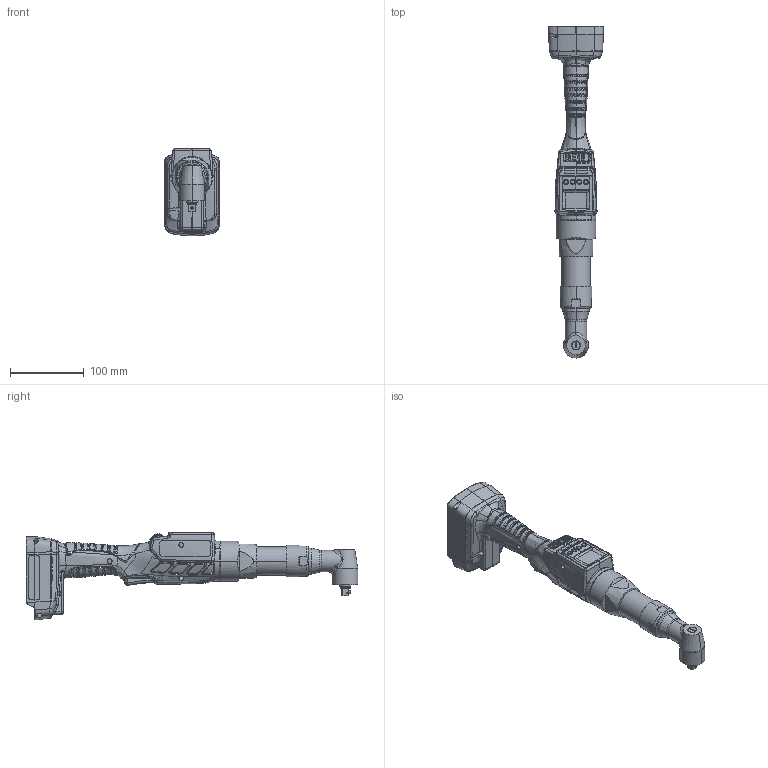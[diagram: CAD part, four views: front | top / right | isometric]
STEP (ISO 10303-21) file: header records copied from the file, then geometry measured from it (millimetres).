
FILE_DESCRIPTION (( 'STEP AP203' ), '1' );
FILE_NAME ('BMH3236-Q38 諼睡辨.STEP', '2021-03-04T00:28:14', ( '' ), ( '' ), 'SwSTEP 2.0', 'SolidWorks 2020', '' );
FILE_SCHEMA (( 'CONFIG_CONTROL_DESIGN' ));
Products named in the file (1): BMH3236-Q38 諼睡辨
Bounding box: 74.18 x 450.44 x 119.33 mm (x, y, z)
Surface area: 108829.1 mm2 (no closed solid volume)
Topology: 0 solids, 33 shells, 1520 faces, 5019 edges, 3395 vertices
Faces by surface type: bspline 969, cylinder 229, plane 224, sphere 40, cone 39, torus 19
Entity records: 131470 total; most frequent: CARTESIAN_POINT 98971, ORIENTED_EDGE 8003, EDGE_CURVE 5004, DIRECTION 3415, VERTEX_POINT 3392, B_SPLINE_CURVE_WITH_KNOTS 2893, EDGE_LOOP 1592, FACE_OUTER_BOUND 1519
